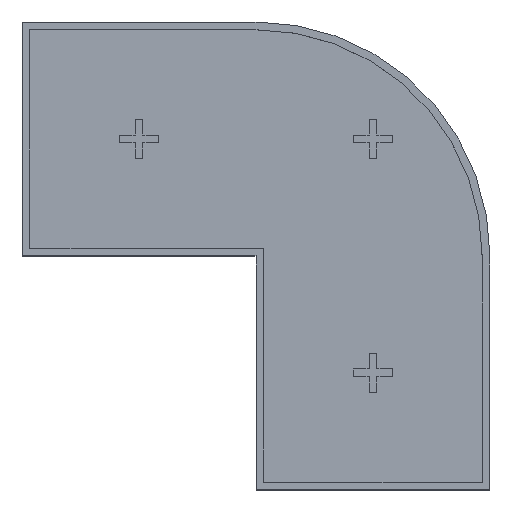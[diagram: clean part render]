
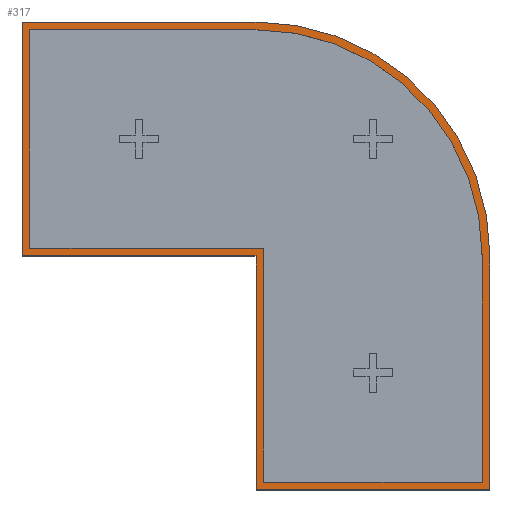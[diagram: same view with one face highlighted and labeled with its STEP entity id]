
A CAD part, top view. The second image highlights one B-rep face of the part: STEP entity #317.
In plain terms, the highlighted planar face has unit normal (0, 0, 1).
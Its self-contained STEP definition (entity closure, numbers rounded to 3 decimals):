
#5 = DIRECTION ( 'NONE',  ( 0., -1., 0. ) ) ;
#38 = LINE ( 'NONE', #1648, #269 ) ;
#39 = CARTESIAN_POINT ( 'NONE',  ( -30., 0., 2.5 ) ) ;
#61 = CARTESIAN_POINT ( 'NONE',  ( 0., 1., 2.5 ) ) ;
#89 = VECTOR ( 'NONE', #5, 1000. ) ;
#113 = LINE ( 'NONE', #1539, #494 ) ;
#117 = VECTOR ( 'NONE', #1070, 1000. ) ;
#129 = EDGE_CURVE ( 'NONE', #563, #1748, #1002, .T. ) ;
#140 = CARTESIAN_POINT ( 'NONE',  ( 0., -30., 2.5 ) ) ;
#159 = CARTESIAN_POINT ( 'NONE',  ( 30., -30., 2.5 ) ) ;
#172 = VERTEX_POINT ( 'NONE', #784 ) ;
#193 = CARTESIAN_POINT ( 'NONE',  ( -30., 30., 2.5 ) ) ;
#240 = VERTEX_POINT ( 'NONE', #140 ) ;
#269 = VECTOR ( 'NONE', #1460, 1000. ) ;
#290 = EDGE_LOOP ( 'NONE', ( #1326, #1103, #550, #1111, #315, #669, #576 ) ) ;
#294 = FACE_OUTER_BOUND ( 'NONE', #290, .T. ) ;
#308 = DIRECTION ( 'NONE',  ( 0., 1., 0. ) ) ;
#315 = ORIENTED_EDGE ( 'NONE', *, *, #652, .T. ) ;
#317 = ADVANCED_FACE ( 'NONE', ( #434, #294 ), #1573, .T. ) ;
#335 = VERTEX_POINT ( 'NONE', #984 ) ;
#344 = AXIS2_PLACEMENT_3D ( 'NONE', #1383, #1198, #1024 ) ;
#347 = AXIS2_PLACEMENT_3D ( 'NONE', #1447, #1266, #1082 ) ;
#354 = CARTESIAN_POINT ( 'NONE',  ( 0., 30., 2.5 ) ) ;
#356 = EDGE_LOOP ( 'NONE', ( #1467, #1398, #1315, #1757, #745, #367, #485 ) ) ;
#367 = ORIENTED_EDGE ( 'NONE', *, *, #806, .F. ) ;
#373 = CARTESIAN_POINT ( 'NONE',  ( 30., 0., 2.5 ) ) ;
#386 = LINE ( 'NONE', #193, #89 ) ;
#405 = VECTOR ( 'NONE', #308, 1000. ) ;
#410 = VERTEX_POINT ( 'NONE', #39 ) ;
#434 = FACE_BOUND ( 'NONE', #356, .T. ) ;
#476 = CARTESIAN_POINT ( 'NONE',  ( 29., -29., 2.5 ) ) ;
#477 = VECTOR ( 'NONE', #644, 1000. ) ;
#485 = ORIENTED_EDGE ( 'NONE', *, *, #579, .F. ) ;
#488 = CARTESIAN_POINT ( 'NONE',  ( 30., 0., 2.5 ) ) ;
#494 = VECTOR ( 'NONE', #1350, 1000. ) ;
#500 = VERTEX_POINT ( 'NONE', #1706 ) ;
#509 = EDGE_CURVE ( 'NONE', #240, #617, #1660, .T. ) ;
#520 = LINE ( 'NONE', #61, #1585 ) ;
#533 = EDGE_CURVE ( 'NONE', #594, #410, #386, .T. ) ;
#545 = DIRECTION ( 'NONE',  ( 1., 0., 0. ) ) ;
#546 = EDGE_CURVE ( 'NONE', #754, #594, #1023, .T. ) ;
#550 = ORIENTED_EDGE ( 'NONE', *, *, #1368, .T. ) ;
#563 = VERTEX_POINT ( 'NONE', #625 ) ;
#568 = VECTOR ( 'NONE', #663, 1000. ) ;
#576 = ORIENTED_EDGE ( 'NONE', *, *, #546, .T. ) ;
#579 = EDGE_CURVE ( 'NONE', #1748, #172, #520, .T. ) ;
#594 = VERTEX_POINT ( 'NONE', #762 ) ;
#602 = CARTESIAN_POINT ( 'NONE',  ( 0., 0., 2.5 ) ) ;
#609 = EDGE_CURVE ( 'NONE', #1043, #500, #1439, .T. ) ;
#617 = VERTEX_POINT ( 'NONE', #159 ) ;
#625 = CARTESIAN_POINT ( 'NONE',  ( -29., 29., 2.5 ) ) ;
#644 = DIRECTION ( 'NONE',  ( 0., -1., 0. ) ) ;
#652 = EDGE_CURVE ( 'NONE', #617, #922, #673, .T. ) ;
#663 = DIRECTION ( 'NONE',  ( -1., 0., 0. ) ) ;
#669 = ORIENTED_EDGE ( 'NONE', *, *, #1738, .T. ) ;
#671 = EDGE_CURVE ( 'NONE', #335, #563, #113, .T. ) ;
#673 = LINE ( 'NONE', #488, #405 ) ;
#694 = EDGE_CURVE ( 'NONE', #410, #898, #904, .T. ) ;
#715 = CIRCLE ( 'NONE', #347, 30. ) ;
#728 = CARTESIAN_POINT ( 'NONE',  ( 0., 0., 2.5 ) ) ;
#745 = ORIENTED_EDGE ( 'NONE', *, *, #1772, .F. ) ;
#754 = VERTEX_POINT ( 'NONE', #354 ) ;
#762 = CARTESIAN_POINT ( 'NONE',  ( -30., 30., 2.5 ) ) ;
#784 = CARTESIAN_POINT ( 'NONE',  ( 1., 1., 2.5 ) ) ;
#806 = EDGE_CURVE ( 'NONE', #172, #1407, #1172, .T. ) ;
#811 = DIRECTION ( 'NONE',  ( 0., -1., 0. ) ) ;
#825 = CARTESIAN_POINT ( 'NONE',  ( -29., 30., 2.5 ) ) ;
#835 = VECTOR ( 'NONE', #811, 1000. ) ;
#844 = CARTESIAN_POINT ( 'NONE',  ( -30., 30., 2.5 ) ) ;
#850 = VECTOR ( 'NONE', #934, 1000. ) ;
#898 = VERTEX_POINT ( 'NONE', #602 ) ;
#904 = LINE ( 'NONE', #728, #1513 ) ;
#922 = VERTEX_POINT ( 'NONE', #373 ) ;
#934 = DIRECTION ( 'NONE',  ( 1., 0., 0. ) ) ;
#984 = CARTESIAN_POINT ( 'NONE',  ( 0., 29., 2.5 ) ) ;
#986 = CIRCLE ( 'NONE', #1304, 29. ) ;
#991 = CARTESIAN_POINT ( 'NONE',  ( 1., 0., 2.5 ) ) ;
#1002 = LINE ( 'NONE', #825, #477 ) ;
#1023 = LINE ( 'NONE', #844, #568 ) ;
#1024 = DIRECTION ( 'NONE',  ( 1., 0., 0. ) ) ;
#1030 = DIRECTION ( 'NONE',  ( 1., 0., 0. ) ) ;
#1043 = VERTEX_POINT ( 'NONE', #476 ) ;
#1070 = DIRECTION ( 'NONE',  ( 0., 1., 0. ) ) ;
#1082 = DIRECTION ( 'NONE',  ( 1., 0., 0. ) ) ;
#1103 = ORIENTED_EDGE ( 'NONE', *, *, #694, .T. ) ;
#1111 = ORIENTED_EDGE ( 'NONE', *, *, #509, .T. ) ;
#1116 = CARTESIAN_POINT ( 'NONE',  ( 0., -29., 2.5 ) ) ;
#1172 = LINE ( 'NONE', #991, #835 ) ;
#1198 = DIRECTION ( 'NONE',  ( 0., 0., 1. ) ) ;
#1206 = DIRECTION ( 'NONE',  ( 0., 0., 1. ) ) ;
#1256 = CARTESIAN_POINT ( 'NONE',  ( 29., 0., 2.5 ) ) ;
#1266 = DIRECTION ( 'NONE',  ( 0., 0., 1. ) ) ;
#1291 = DIRECTION ( 'NONE',  ( 1., 0., 0. ) ) ;
#1297 = LINE ( 'NONE', #1116, #850 ) ;
#1304 = AXIS2_PLACEMENT_3D ( 'NONE', #1390, #1206, #1030 ) ;
#1315 = ORIENTED_EDGE ( 'NONE', *, *, #1799, .F. ) ;
#1326 = ORIENTED_EDGE ( 'NONE', *, *, #533, .T. ) ;
#1338 = CARTESIAN_POINT ( 'NONE',  ( -29., 1., 2.5 ) ) ;
#1350 = DIRECTION ( 'NONE',  ( -1., 0., 0. ) ) ;
#1368 = EDGE_CURVE ( 'NONE', #898, #240, #38, .T. ) ;
#1383 = CARTESIAN_POINT ( 'NONE',  ( 0., 0., 2.5 ) ) ;
#1390 = CARTESIAN_POINT ( 'NONE',  ( 0., 0., 2.5 ) ) ;
#1398 = ORIENTED_EDGE ( 'NONE', *, *, #671, .F. ) ;
#1407 = VERTEX_POINT ( 'NONE', #1415 ) ;
#1415 = CARTESIAN_POINT ( 'NONE',  ( 1., -29., 2.5 ) ) ;
#1439 = LINE ( 'NONE', #1256, #117 ) ;
#1447 = CARTESIAN_POINT ( 'NONE',  ( 0., 0., 2.5 ) ) ;
#1460 = DIRECTION ( 'NONE',  ( 0., -1., 0. ) ) ;
#1467 = ORIENTED_EDGE ( 'NONE', *, *, #129, .F. ) ;
#1472 = CARTESIAN_POINT ( 'NONE',  ( 0., -30., 2.5 ) ) ;
#1513 = VECTOR ( 'NONE', #545, 1000. ) ;
#1539 = CARTESIAN_POINT ( 'NONE',  ( -30., 29., 2.5 ) ) ;
#1573 = PLANE ( 'NONE',  #344 ) ;
#1585 = VECTOR ( 'NONE', #1671, 1000. ) ;
#1648 = CARTESIAN_POINT ( 'NONE',  ( 0., 0., 2.5 ) ) ;
#1660 = LINE ( 'NONE', #1472, #1702 ) ;
#1671 = DIRECTION ( 'NONE',  ( 1., 0., 0. ) ) ;
#1702 = VECTOR ( 'NONE', #1291, 1000. ) ;
#1706 = CARTESIAN_POINT ( 'NONE',  ( 29., 0., 2.5 ) ) ;
#1738 = EDGE_CURVE ( 'NONE', #922, #754, #715, .T. ) ;
#1748 = VERTEX_POINT ( 'NONE', #1338 ) ;
#1757 = ORIENTED_EDGE ( 'NONE', *, *, #609, .F. ) ;
#1772 = EDGE_CURVE ( 'NONE', #1407, #1043, #1297, .T. ) ;
#1799 = EDGE_CURVE ( 'NONE', #500, #335, #986, .T. ) ;
